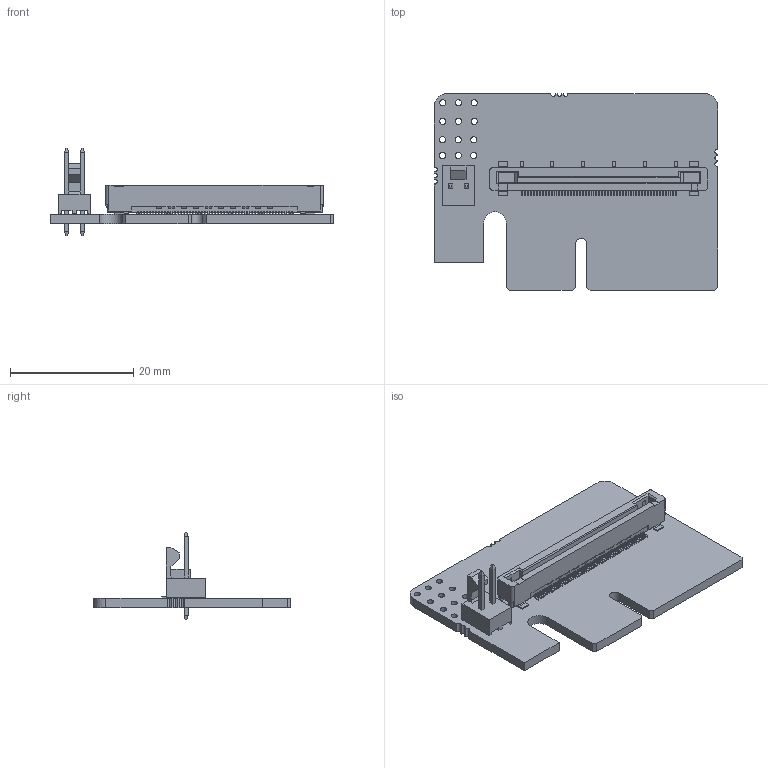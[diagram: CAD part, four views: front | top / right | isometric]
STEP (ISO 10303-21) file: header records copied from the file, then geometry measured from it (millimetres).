
FILE_DESCRIPTION(/* description */ ('step model'),/* implementation_level */ '2;1');
FILE_NAME(/* name */ 'ADPT-MX-X4G2-PCIE-FV.stp',/* time_stamp */ '2017-09-04T14:38:23+02:00',/* author */ ('Spano'),/* organization */ ('Ximea'),/* preprocessor_version */ 'ST-DEVELOPER v16',/* originating_system */ 'SIEMENS PLM Software NX 11.0',/* authorisation */ '');
FILE_SCHEMA (('AUTOMOTIVE_DESIGN { 1 0 10303 214 3 1 1 1 }'));
Length unit declared in the file: millimetre
Products named in the file (1): ADPT-MX-X4G2-PCIE-FV
Bounding box: 45.95 x 31.93 x 14.22 mm (x, y, z)
Volume: 2734.1 mm3; surface area: 4209.5 mm2
Topology: 5 solids, 5 shells, 963 faces, 2682 edges, 1778 vertices
Faces by surface type: plane 658, cylinder 305
Full cylindrical faces by diameter (mm): 1 x14
Entity records: 30973 total; most frequent: CARTESIAN_POINT 5544, ORIENTED_EDGE 5364, DIRECTION 5208, EDGE_CURVE 2682, LINE 2044, VECTOR 2044, VERTEX_POINT 1778, AXIS2_PLACEMENT_3D 1582
